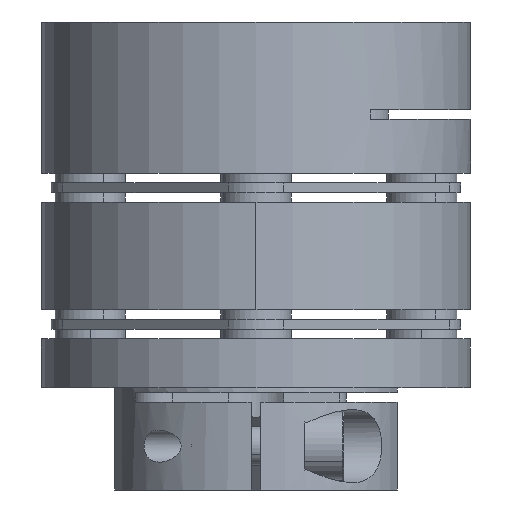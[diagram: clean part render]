
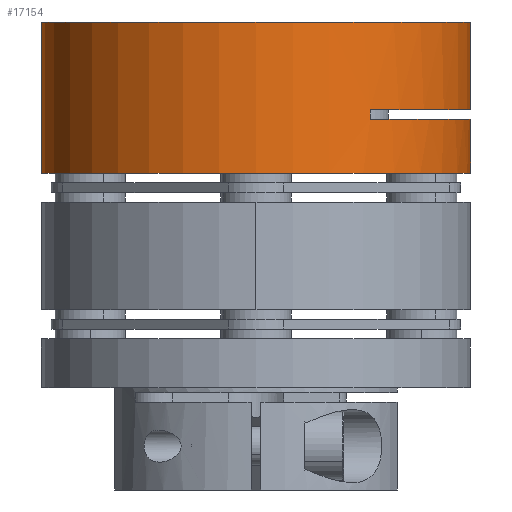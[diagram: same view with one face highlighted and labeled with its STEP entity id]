
A CAD part, front view. The second image highlights one B-rep face of the part: STEP entity #17154.
In plain terms, the highlighted cylindrical face has radius 22 mm (diameter 44 mm), a partial arc.
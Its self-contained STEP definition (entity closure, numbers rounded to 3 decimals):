
#155 = EDGE_CURVE ( 'NONE', #5926, #9231, #15491, .T. ) ;
#845 = CARTESIAN_POINT ( 'NONE',  ( -16.438, 49.072, 103.386 ) ) ;
#1048 = DIRECTION ( 'NONE',  ( 0., 0., 1. ) ) ;
#1289 = AXIS2_PLACEMENT_3D ( 'NONE', #5666, #16513, #7245 ) ;
#1497 = AXIS2_PLACEMENT_3D ( 'NONE', #1605, #12491, #3193 ) ;
#1605 = CARTESIAN_POINT ( 'NONE',  ( 5.562, 49.072, 93.386 ) ) ;
#2586 = CARTESIAN_POINT ( 'NONE',  ( 27.562, 49.072, 103.386 ) ) ;
#2601 = VERTEX_POINT ( 'NONE', #7696 ) ;
#2755 = CARTESIAN_POINT ( 'NONE',  ( 27.562, 49.072, 87.886 ) ) ;
#2839 = VERTEX_POINT ( 'NONE', #11647 ) ;
#2998 = ORIENTED_EDGE ( 'NONE', *, *, #19662, .T. ) ;
#3193 = DIRECTION ( 'NONE',  ( -1., 0., 0. ) ) ;
#4390 = DIRECTION ( 'NONE',  ( 0., 0., -1. ) ) ;
#4454 = DIRECTION ( 'NONE',  ( -1., 0., 0. ) ) ;
#4625 = FACE_OUTER_BOUND ( 'NONE', #11910, .T. ) ;
#5039 = ORIENTED_EDGE ( 'NONE', *, *, #14181, .F. ) ;
#5336 = VERTEX_POINT ( 'NONE', #16060 ) ;
#5526 = CARTESIAN_POINT ( 'NONE',  ( 27.562, 49.072, 94.386 ) ) ;
#5586 = VERTEX_POINT ( 'NONE', #10555 ) ;
#5666 = CARTESIAN_POINT ( 'NONE',  ( 5.562, 49.072, 94.386 ) ) ;
#5866 = EDGE_CURVE ( 'NONE', #16980, #5336, #16446, .T. ) ;
#5926 = VERTEX_POINT ( 'NONE', #18210 ) ;
#6020 = AXIS2_PLACEMENT_3D ( 'NONE', #18334, #4390, #4454 ) ;
#6212 = AXIS2_PLACEMENT_3D ( 'NONE', #8636, #19508, #10195 ) ;
#6648 = CIRCLE ( 'NONE', #6212, 22. ) ;
#6696 = CARTESIAN_POINT ( 'NONE',  ( 17.272, 30.448, 94.386 ) ) ;
#7245 = DIRECTION ( 'NONE',  ( -1., 0., 0. ) ) ;
#7696 = CARTESIAN_POINT ( 'NONE',  ( -16.438, 49.072, 87.886 ) ) ;
#7970 = LINE ( 'NONE', #2586, #15733 ) ;
#8281 = CARTESIAN_POINT ( 'NONE',  ( -16.438, 49.072, 103.386 ) ) ;
#8453 = CARTESIAN_POINT ( 'NONE',  ( 27.562, 49.072, 103.386 ) ) ;
#8636 = CARTESIAN_POINT ( 'NONE',  ( 5.562, 49.072, 87.886 ) ) ;
#8832 = VECTOR ( 'NONE', #17615, 1000. ) ;
#9009 = EDGE_CURVE ( 'NONE', #2839, #5586, #13003, .T. ) ;
#9231 = VERTEX_POINT ( 'NONE', #2755 ) ;
#9829 = DIRECTION ( 'NONE',  ( 0., 0., -1. ) ) ;
#10195 = DIRECTION ( 'NONE',  ( 1., 0., 0. ) ) ;
#10347 = VECTOR ( 'NONE', #9829, 1000. ) ;
#10350 = CARTESIAN_POINT ( 'NONE',  ( 5.562, 49.072, 103.386 ) ) ;
#10476 = ORIENTED_EDGE ( 'NONE', *, *, #5866, .F. ) ;
#10555 = CARTESIAN_POINT ( 'NONE',  ( 17.272, 30.448, 93.386 ) ) ;
#11414 = VECTOR ( 'NONE', #14219, 1000. ) ;
#11548 = ORIENTED_EDGE ( 'NONE', *, *, #15579, .F. ) ;
#11647 = CARTESIAN_POINT ( 'NONE',  ( 17.272, 30.448, 94.386 ) ) ;
#11910 = EDGE_LOOP ( 'NONE', ( #5039, #10476, #14988, #2998, #17363, #17784, #17968, #11548 ) ) ;
#11920 = DIRECTION ( 'NONE',  ( 1., 0., 0. ) ) ;
#12491 = DIRECTION ( 'NONE',  ( 0., 0., -1. ) ) ;
#13003 = LINE ( 'NONE', #6696, #8832 ) ;
#13040 = AXIS2_PLACEMENT_3D ( 'NONE', #10350, #1048, #11920 ) ;
#13319 = EDGE_CURVE ( 'NONE', #5926, #5586, #13325, .T. ) ;
#13325 = CIRCLE ( 'NONE', #1497, 22. ) ;
#14181 = EDGE_CURVE ( 'NONE', #5336, #18134, #7970, .T. ) ;
#14219 = DIRECTION ( 'NONE',  ( 0., 0., -1. ) ) ;
#14887 = EDGE_CURVE ( 'NONE', #16980, #2601, #14971, .T. ) ;
#14944 = DIRECTION ( 'NONE',  ( 0., 0., -1. ) ) ;
#14971 = LINE ( 'NONE', #8281, #10347 ) ;
#14988 = ORIENTED_EDGE ( 'NONE', *, *, #14887, .T. ) ;
#15491 = LINE ( 'NONE', #8453, #11414 ) ;
#15579 = EDGE_CURVE ( 'NONE', #18134, #2839, #18504, .T. ) ;
#15733 = VECTOR ( 'NONE', #14944, 1000. ) ;
#16060 = CARTESIAN_POINT ( 'NONE',  ( 27.562, 49.072, 103.386 ) ) ;
#16446 = CIRCLE ( 'NONE', #13040, 22. ) ;
#16513 = DIRECTION ( 'NONE',  ( 0., 0., -1. ) ) ;
#16980 = VERTEX_POINT ( 'NONE', #845 ) ;
#17154 = ADVANCED_FACE ( 'NONE', ( #4625 ), #18685, .T. ) ;
#17363 = ORIENTED_EDGE ( 'NONE', *, *, #155, .F. ) ;
#17615 = DIRECTION ( 'NONE',  ( 0., 0., -1. ) ) ;
#17784 = ORIENTED_EDGE ( 'NONE', *, *, #13319, .T. ) ;
#17968 = ORIENTED_EDGE ( 'NONE', *, *, #9009, .F. ) ;
#18134 = VERTEX_POINT ( 'NONE', #5526 ) ;
#18210 = CARTESIAN_POINT ( 'NONE',  ( 27.562, 49.072, 93.386 ) ) ;
#18334 = CARTESIAN_POINT ( 'NONE',  ( 5.562, 49.072, 103.386 ) ) ;
#18504 = CIRCLE ( 'NONE', #1289, 22. ) ;
#18685 = CYLINDRICAL_SURFACE ( 'NONE', #6020, 22. ) ;
#19508 = DIRECTION ( 'NONE',  ( 0., 0., 1. ) ) ;
#19662 = EDGE_CURVE ( 'NONE', #2601, #9231, #6648, .T. ) ;
